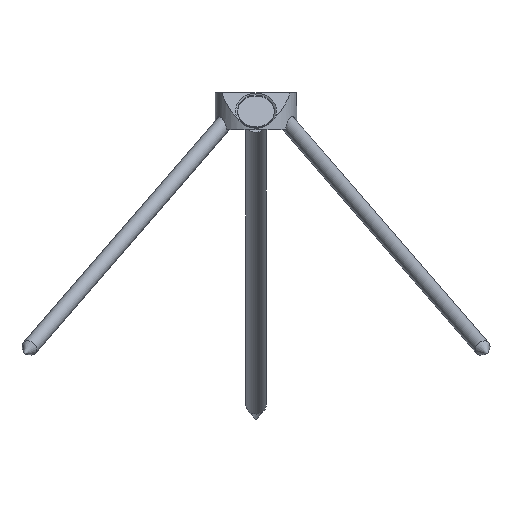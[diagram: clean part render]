
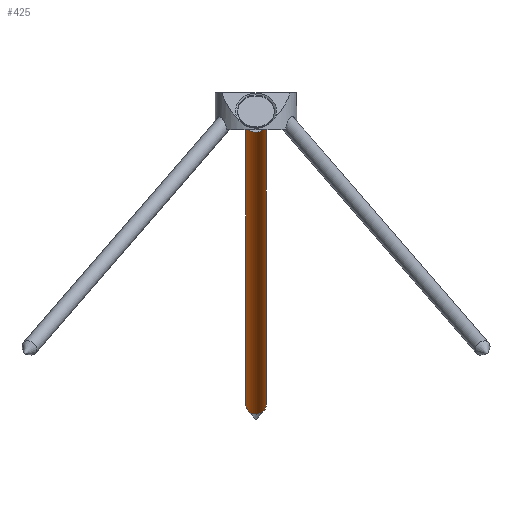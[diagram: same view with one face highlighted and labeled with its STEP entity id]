
A CAD part, front view. The second image highlights one B-rep face of the part: STEP entity #425.
In plain terms, the highlighted cylindrical face has radius 5 mm (diameter 10 mm), a full revolution.
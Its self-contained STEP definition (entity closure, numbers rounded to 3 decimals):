
#95=CIRCLE('',#534,5.);
#96=CIRCLE('',#536,5.);
#177=ORIENTED_EDGE('',*,*,#222,.T.);
#178=ORIENTED_EDGE('',*,*,#221,.F.);
#221=EDGE_CURVE('',#258,#258,#95,.T.);
#222=EDGE_CURVE('',#259,#259,#96,.T.);
#258=VERTEX_POINT('',#845);
#259=VERTEX_POINT('',#848);
#319=EDGE_LOOP('',(#177));
#320=EDGE_LOOP('',(#178));
#378=FACE_BOUND('',#319,.T.);
#379=FACE_BOUND('',#320,.T.);
#395=CYLINDRICAL_SURFACE('',#535,5.);
#425=ADVANCED_FACE('',(#378,#379),#395,.T.);
#534=AXIS2_PLACEMENT_3D('',#844,#674,#675);
#535=AXIS2_PLACEMENT_3D('',#846,#676,#677);
#536=AXIS2_PLACEMENT_3D('',#847,#678,#679);
#674=DIRECTION('',(0.,1.,0.));
#675=DIRECTION('',(0.,0.,1.));
#676=DIRECTION('',(0.,1.,0.));
#677=DIRECTION('',(0.,0.,1.));
#678=DIRECTION('',(0.,1.,0.));
#679=DIRECTION('',(0.,0.,1.));
#844=CARTESIAN_POINT('',(0.,42.,0.));
#845=CARTESIAN_POINT('',(0.,42.,5.));
#846=CARTESIAN_POINT('',(0.,54.,0.));
#847=CARTESIAN_POINT('',(0.,-233.,0.));
#848=CARTESIAN_POINT('',(0.,-233.,5.));
